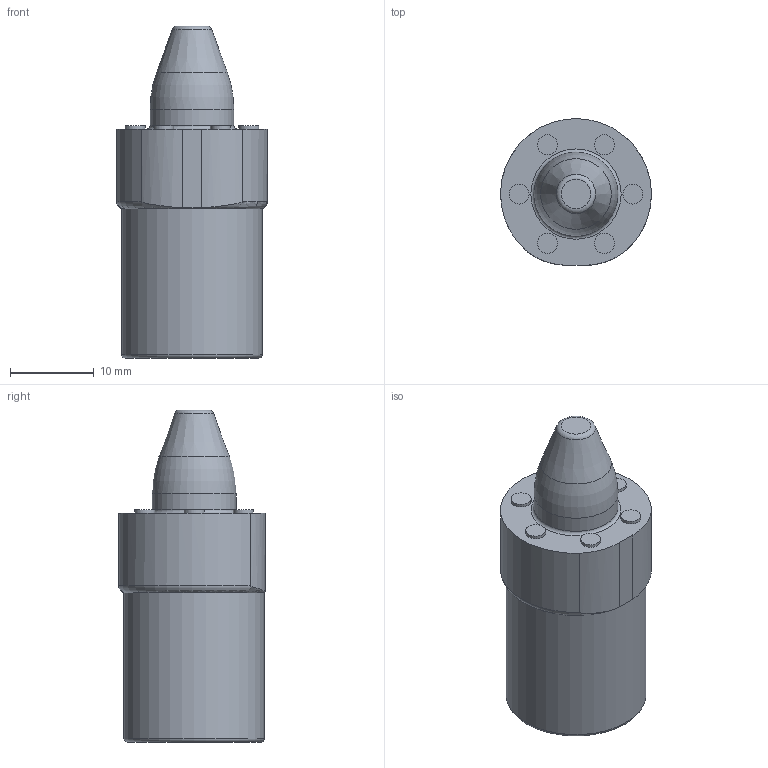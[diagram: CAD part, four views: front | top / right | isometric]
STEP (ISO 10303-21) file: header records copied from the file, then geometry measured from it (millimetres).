
FILE_DESCRIPTION (( 'STEP AP214' ), '1' );
FILE_NAME ('PA-10mm-1.9mm-S-P-BT.STEP', '2023-12-06T12:02:00', ( '' ), ( '' ), 'SwSTEP 2.0', 'SolidWorks 2020', '' );
FILE_SCHEMA (( 'AUTOMOTIVE_DESIGN' ));
Length unit declared in the file: inch
Products named in the file (1): PA-10mm-1.9mm-S-P-BT
Bounding box: 18 x 17.48 x 39.59 mm (x, y, z)
Volume: 6727.4 mm3; surface area: 2430.9 mm2
Topology: 1 solids, 1 shells, 31 faces, 59 edges, 37 vertices
Faces by surface type: cylinder 13, plane 10, torus 5, cone 3
Full cylindrical faces by diameter (mm): 2.388 x6, 4.2 x1, 5 x1, 10 x1, 16.739 x1
Entity records: 869 total; most frequent: CARTESIAN_POINT 147, DIRECTION 127, ORIENTED_EDGE 74, AXIS2_PLACEMENT_3D 61, EDGE_LOOP 56, FACE_OUTER_BOUND 46, EDGE_CURVE 37, VERTEX_POINT 33
